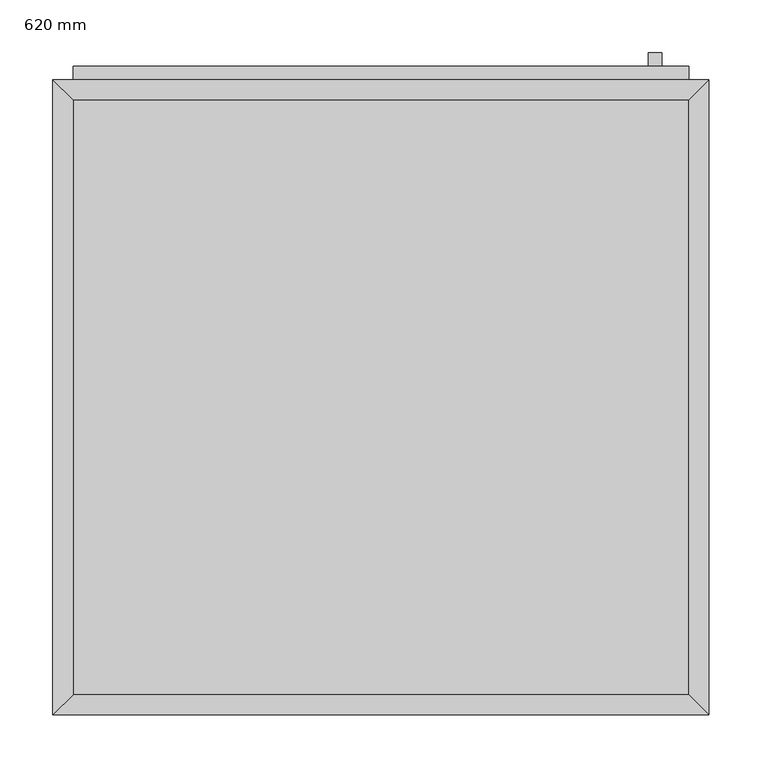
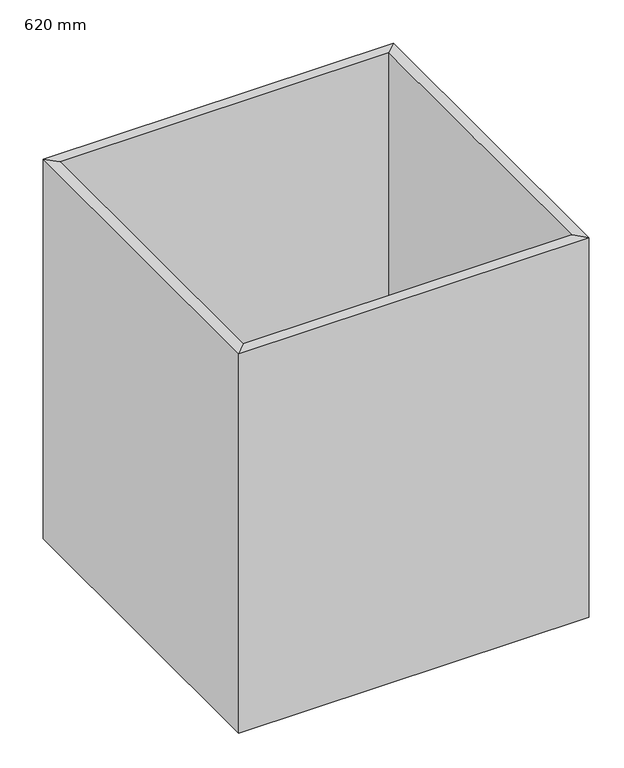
"""IFC4 building model written with IfcOpenShell, lengths in millimetres: furniture geometry, Armario-Una puerta : 620 mm."""

from ifc_helpers import new_model, si_unit, frame, origin, place, context, project, spatial, polyline, outline, extrude, faceted_brep, source, transform, mapped, element, save


def furniture_620_mm_84e951ed(model_context):
    return source(origin(), model_context, "Body", "SolidModel", [
        extrude(outline(polyline([(309.6877049, 19.05), (-272.2122951, 19.05), (-272.2122951, 580.95), (309.6877049, 580.95), (309.6877049, 19.05)])), frame((0.0, 0.0, 150.0), z_axis=(0.0, 0.0, 1.0), x_axis=(1.0, 0.0, 0.0)), (0.0, 0.0, 1.0), 19.05),
        faceted_brep([(309.6877049, 580.95, 860.0), (-272.2122951, 580.95, 860.0), (-272.2122951, 580.95, 150.0), (309.6877049, 580.95, 150.0), (328.7377049, 600.0, 860.0), (-291.2622951, 600.0, 860.0), (328.7377049, 600.0, 150.0), (-291.2622951, 600.0, 150.0), (-272.2122951, 19.05, 860.0), (-272.2122951, 19.05, 150.0), (-291.2622951, 0.0, 860.0), (-291.2622951, 0.0, 150.0), (309.6877049, 19.05, 860.0), (309.6877049, 19.05, 150.0), (328.7377049, 0.0, 860.0), (328.7377049, 0.0, 150.0)], [[[0, 1, 2, 3]], [[4, 5, 1, 0]], [[6, 7, 5, 4]], [[3, 2, 7, 6]], [[1, 8, 9, 2]], [[5, 10, 8, 1]], [[7, 11, 10, 5]], [[2, 9, 11, 7]], [[8, 12, 13, 9]], [[10, 14, 12, 8]], [[11, 15, 14, 10]], [[9, 13, 15, 11]], [[12, 0, 3, 13]], [[14, 4, 0, 12]], [[15, 6, 4, 14]], [[13, 3, 6, 15]]]),
        extrude(outline(polyline([(309.6877049, 612.7), (309.6877049, 600.0), (-272.2122951, 600.0), (-272.2122951, 612.7), (309.6877049, 612.7)])), frame((0.0, 0.0, 169.05), z_axis=(0.0, 0.0, 1.0), x_axis=(1.0, 0.0, 0.0)), (0.0, 0.0, 1.0), 671.9),
        extrude(outline(polyline([(284.2877049, 625.4), (284.2877049, 612.7), (271.5877049, 612.7), (271.5877049, 625.4), (284.2877049, 625.4)])), frame((0.0, 0.0, 701.25), z_axis=(0.0, 0.0, 1.0), x_axis=(1.0, 0.0, 0.0)), (0.0, 0.0, 1.0), 101.6),
    ])


if __name__ == "__main__":
    model = new_model("IFC4")
    model_context = context("Model", 3, world=origin())
    ifc_project = project(units=[si_unit("LENGTHUNIT", "METRE", prefix="MILLI")], contexts=[model_context])
    site = spatial("IfcSite", under=ifc_project)
    building = spatial("IfcBuilding", under=site)
    placement = place(None, origin())
    furniture_620_mm_shape = furniture_620_mm_84e951ed(model_context)
    element("IfcFurniture", 1, ObjectType="Armario-Una puerta : 620 mm", at=placement, inside=building, context=model_context, shape_type="MappedRepresentation", body=[
        mapped(furniture_620_mm_shape, transform((0.0, 0.0, 0.0), x_axis=(1.0, 0.0, 0.0), y_axis=(0.0, 1.0, 0.0), z_axis=(0.0, 0.0, 1.0))),
    ])
    save(model, "model.ifc")
